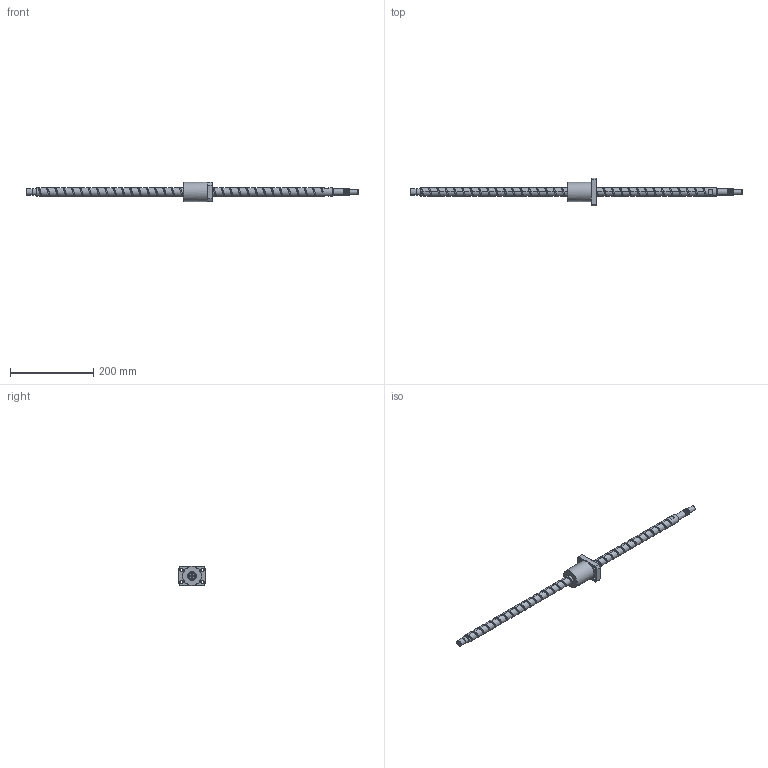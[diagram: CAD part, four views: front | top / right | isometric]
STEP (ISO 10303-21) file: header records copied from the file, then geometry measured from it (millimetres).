
FILE_DESCRIPTION (( 'STEP AP203' ), '1' );
FILE_NAME ('XSVR02020A1DGC5-799-P1.step', '2024-06-03T06:48:56', ( '' ), ( '' ), 'SwSTEP 2.0', 'SolidWorks 2022', '' );
FILE_SCHEMA (( 'CONFIG_CONTROL_DESIGN' ));
Length unit declared in the file: millimetre
Products named in the file (1): XSVR02020A1DGC5-799-P1
Bounding box: 799 x 66 x 46 mm (x, y, z)
Volume: 333905.7 mm3; surface area: 74316.4 mm2
Topology: 2 solids, 2 shells, 191 faces, 523 edges, 344 vertices
Faces by surface type: cylinder 93, plane 40, bspline 29, cone 20, torus 9
Full cylindrical faces by diameter (mm): 4 x1, 5 x15, 6.6 x4, 11 x4, 12 x1, 14.3 x1, 15 x16, 20 x35, 22.1 x1, 46 x1
Entity records: 27312 total; most frequent: CARTESIAN_POINT 24694, ORIENTED_EDGE 576, DIRECTION 407, EDGE_CURVE 288, VERTEX_POINT 206, EDGE_LOOP 184, AXIS2_PLACEMENT_3D 178, FACE_OUTER_BOUND 146
